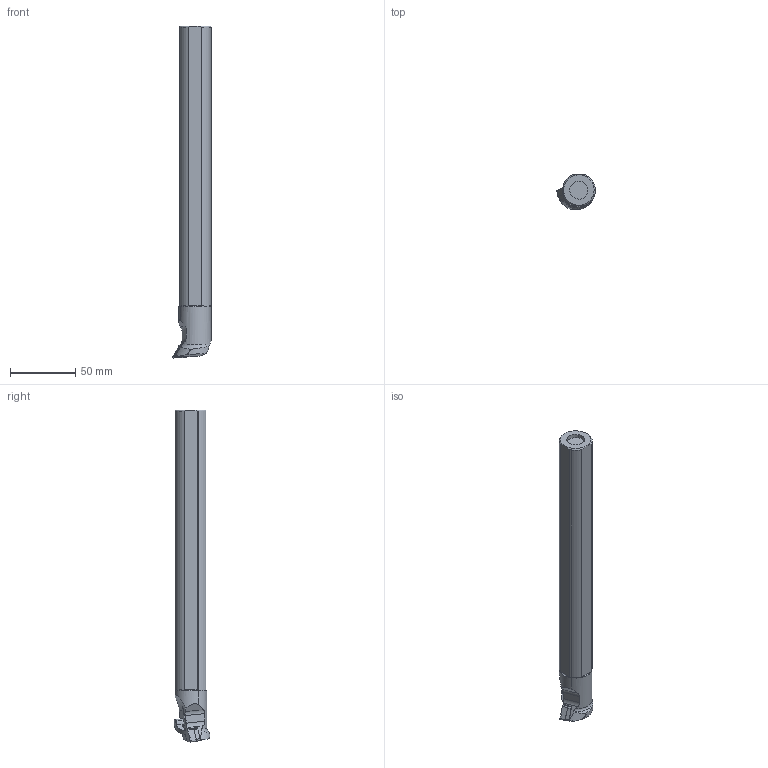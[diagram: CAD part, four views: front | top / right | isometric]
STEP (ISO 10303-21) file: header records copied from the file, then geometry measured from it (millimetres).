
FILE_DESCRIPTION(('CATIA V5 STEP','CAx-IF Rec.Pracs.--- Model Styling and Organization---1.2---2011-12-15'),'2;1');
FILE_NAME('I:\isr\design\admin8\users\raid_s\3601228-L-I.stp','2014-06-19T11:59:21+00:00',('none'),('none'),'CATIA Version 5 Release 21 SP 5 (IN-10)','CATIA V5 STEP AP214','none');
FILE_SCHEMA(('AUTOMOTIVE_DESIGN { 1 0 10303 214 1 1 1 1 }'));
Length unit declared in the file: millimetre
Products named in the file (1): 620194528_0  A-MDUNR 16-3
Bounding box: 29.7 x 27.41 x 253.99 mm (x, y, z)
Volume: 118544.9 mm3; surface area: 21727.2 mm2
Topology: 2 solids, 2 shells, 125 faces, 338 edges, 213 vertices
Faces by surface type: cylinder 46, plane 41, torus 18, cone 10, sphere 4, extrusion 4, bspline 2
Entity records: 5039 total; most frequent: CARTESIAN_POINT 2197, ORIENTED_EDGE 628, DIRECTION 451, EDGE_CURVE 314, AXIS2_PLACEMENT_3D 206, VERTEX_POINT 196, VECTOR 149, LINE 145
